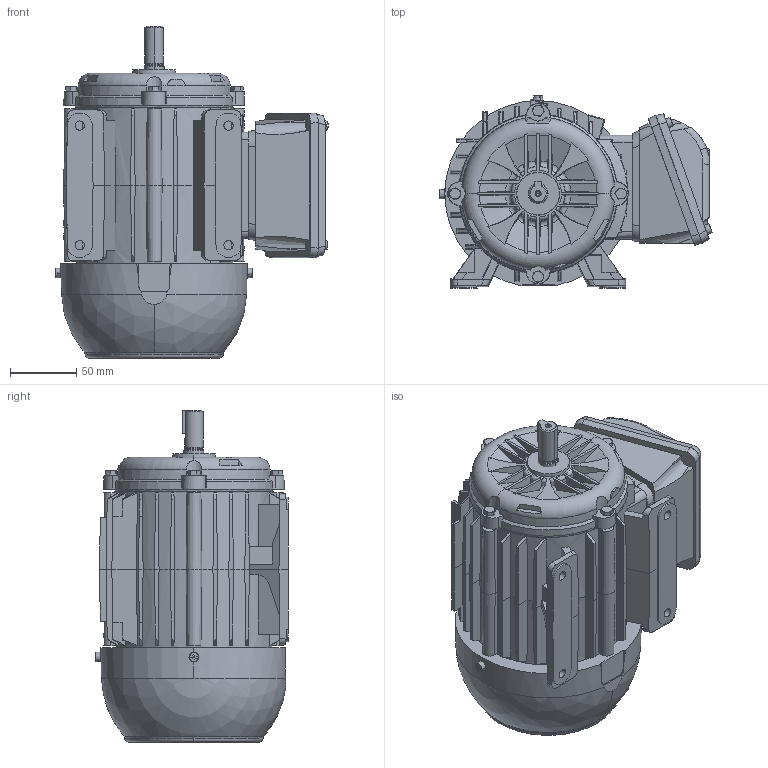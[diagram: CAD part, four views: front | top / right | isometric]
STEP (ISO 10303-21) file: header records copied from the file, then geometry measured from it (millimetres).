
FILE_DESCRIPTION (( 'STEP AP203' ), '1' );
FILE_NAME ('71_RIGHT.STEP', '2013-10-31T13:17:10', ( 'Support' ), ( '' ), 'SwSTEP 2.0', 'SolidWorks 2012', '' );
FILE_SCHEMA (( 'CONFIG_CONTROL_DESIGN' ));
Length unit declared in the file: millimetre
Products named in the file (1): 71_RIGHT
Bounding box: 204.93 x 144.95 x 250 mm (x, y, z)
Volume: 3286787.5 mm3; surface area: 297256.6 mm2
Topology: 17 solids, 21 shells, 1533 faces, 3903 edges, 2529 vertices
Faces by surface type: plane 1063, cone 227, cylinder 164, torus 48, bspline 29, sphere 2
Entity records: 49564 total; most frequent: CARTESIAN_POINT 13957, ORIENTED_EDGE 7802, DIRECTION 6663, EDGE_CURVE 3901, VERTEX_POINT 2529, VECTOR 2337, LINE 2337, AXIS2_PLACEMENT_3D 2163
